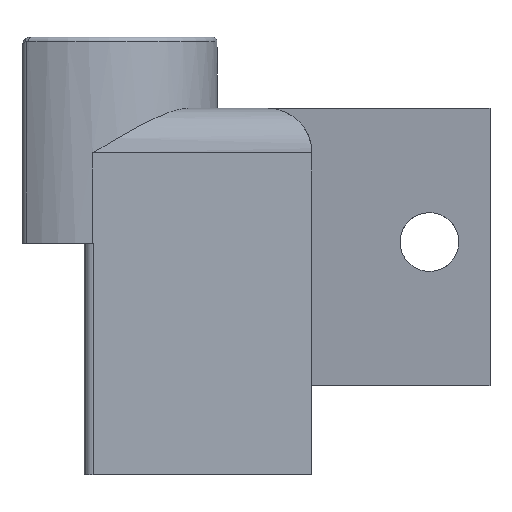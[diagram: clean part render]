
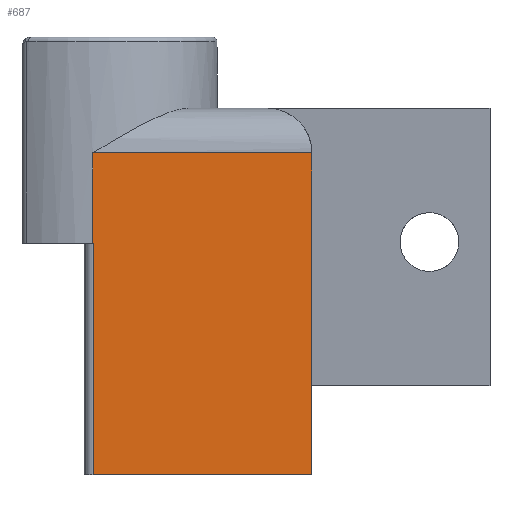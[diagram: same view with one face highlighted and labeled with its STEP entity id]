
A CAD part, front view. The second image highlights one B-rep face of the part: STEP entity #687.
In plain terms, the highlighted planar face has unit normal (0, -1, 0).
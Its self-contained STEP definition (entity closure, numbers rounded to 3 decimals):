
#47=PLANE('',#749);
#65=FACE_OUTER_BOUND('',#106,.T.);
#106=EDGE_LOOP('',(#478,#479,#480,#481,#482,#483));
#152=LINE('',#1042,#207);
#155=LINE('',#1057,#210);
#156=LINE('',#1060,#211);
#157=LINE('',#1062,#212);
#158=LINE('',#1064,#213);
#159=LINE('',#1065,#214);
#207=VECTOR('',#832,10.);
#210=VECTOR('',#847,10.);
#211=VECTOR('',#850,10.);
#212=VECTOR('',#851,10.);
#213=VECTOR('',#852,10.);
#214=VECTOR('',#853,10.);
#292=VERTEX_POINT('',#1039);
#293=VERTEX_POINT('',#1041);
#298=VERTEX_POINT('',#1053);
#300=VERTEX_POINT('',#1059);
#301=VERTEX_POINT('',#1061);
#302=VERTEX_POINT('',#1063);
#360=EDGE_CURVE('',#293,#292,#152,.F.);
#368=EDGE_CURVE('',#293,#298,#155,.T.);
#369=EDGE_CURVE('',#298,#300,#156,.T.);
#370=EDGE_CURVE('',#292,#301,#157,.F.);
#371=EDGE_CURVE('',#302,#301,#158,.T.);
#372=EDGE_CURVE('',#300,#302,#159,.T.);
#478=ORIENTED_EDGE('',*,*,#369,.F.);
#479=ORIENTED_EDGE('',*,*,#368,.F.);
#480=ORIENTED_EDGE('',*,*,#360,.T.);
#481=ORIENTED_EDGE('',*,*,#370,.T.);
#482=ORIENTED_EDGE('',*,*,#371,.F.);
#483=ORIENTED_EDGE('',*,*,#372,.F.);
#687=ADVANCED_FACE('',(#65),#47,.T.);
#749=AXIS2_PLACEMENT_3D('',#1058,#848,#849);
#832=DIRECTION('',(-1.,0.,0.));
#847=DIRECTION('',(0.,0.,1.));
#848=DIRECTION('center_axis',(0.,-1.,0.));
#849=DIRECTION('ref_axis',(1.,0.,0.));
#850=DIRECTION('',(-1.,0.,0.));
#851=DIRECTION('',(0.,0.,-1.));
#852=DIRECTION('',(1.,0.,0.));
#853=DIRECTION('',(0.,0.,1.));
#1039=CARTESIAN_POINT('',(-209.732,-9.271,-107.29));
#1041=CARTESIAN_POINT('',(-222.,-9.271,-107.29));
#1042=CARTESIAN_POINT('',(-154.039,-9.271,-107.29));
#1053=CARTESIAN_POINT('',(-222.,-9.271,-94.29));
#1057=CARTESIAN_POINT('',(-222.,-9.271,-105.54));
#1058=CARTESIAN_POINT('Origin',(-217.23,-9.271,-117.29));
#1059=CARTESIAN_POINT('',(-222.032,-9.271,-94.29));
#1060=CARTESIAN_POINT('',(-221.615,-9.271,-94.29));
#1061=CARTESIAN_POINT('',(-209.732,-9.271,-89.222));
#1062=CARTESIAN_POINT('',(-209.732,-9.271,-100.256));
#1063=CARTESIAN_POINT('',(-222.032,-9.271,-89.222));
#1064=CARTESIAN_POINT('',(-214.281,-9.271,-89.222));
#1065=CARTESIAN_POINT('',(-222.032,-9.271,-117.29));
